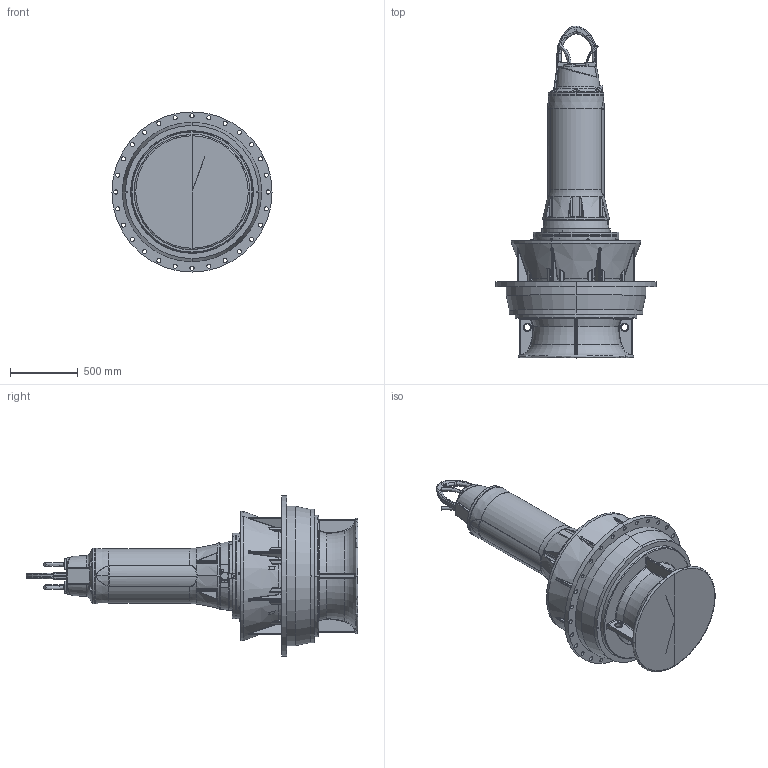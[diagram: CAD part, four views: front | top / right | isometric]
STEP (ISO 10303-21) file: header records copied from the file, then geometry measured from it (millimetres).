
FILE_DESCRIPTION (( 'STEP AP214' ), '1' );
FILE_NAME ('PE5_VUPX0800_DIN_B_NG2.STEP', '2017-04-10T09:14:09', ( '' ), ( '' ), 'SwSTEP 2.0', 'SolidWorks 2017', '' );
FILE_SCHEMA (( 'AUTOMOTIVE_DESIGN' ));
Length unit declared in the file: millimetre
Products named in the file (1): PE5_VUPX0800_DIN_B_NG2
Bounding box: 1178 x 2440.96 x 1178 mm (x, y, z)
Volume: 630130942.4 mm3; surface area: 8908329.1 mm2
Topology: 4 solids, 20 shells, 1807 faces, 4396 edges, 2615 vertices
Faces by surface type: bspline 665, cylinder 503, plane 280, torus 202, cone 141, sphere 16
Entity records: 135076 total; most frequent: CARTESIAN_POINT 78141, ORIENTED_EDGE 8696, DIRECTION 6488, EDGE_CURVE 4348, AXIS2_PLACEMENT_3D 2761, VERTEX_POINT 2615, EDGE_LOOP 1911, UNCERTAINTY_MEASURE_WITH_UNIT 1813
